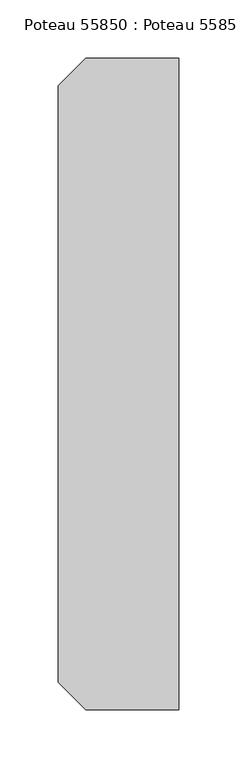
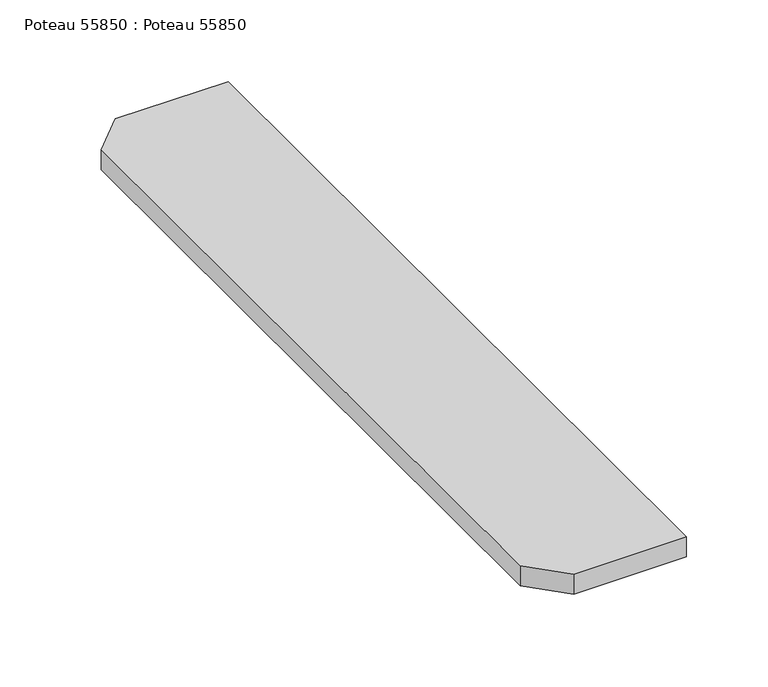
"""IFC4 building model written with IfcOpenShell, lengths in millimetres: beam geometry, Poteau 55850 : Poteau 55850."""

import ifcopenshell
import ifcopenshell.guid

model = None  # the IFC model being written
_history = None  # IfcOwnerHistory: only IFC2X3 demands one
_inside = {}  # id of a spatial element -> (the spatial element, [elements in it])
_under = {}  # id of a project, library or spatial element -> (it, [spatial elements below it])
_declared = {}  # id of a project -> (the project, [libraries it declares])
_typed = {}  # id of a type object -> (the type object, [elements of that type])
_made_of = {}  # id of a material, layer set ... -> (it, [elements and type objects made of it])


def new_model(schema):
    """Start an empty IFC model of exactly this schema.

    Asked for "IFC4X3", IfcOpenShell would pick the latest addendum, in which some entities
    have other attributes; the version numbers below select the first issue.
    IFC2X3 requires an IfcOwnerHistory on every rooted entity: one is made here for all.
    """
    global model, _history
    if schema == "IFC4X3":
        model = ifcopenshell.file(schema_version=(4, 3, 0, 0))
    else:
        model = ifcopenshell.file(schema=schema)
    _inside.clear()
    _under.clear()
    _declared.clear()
    _typed.clear()
    _made_of.clear()
    _history = None
    if model.schema == "IFC2X3":
        org = make("IfcOrganization", Name="unknown")
        user = make(
            "IfcPersonAndOrganization",
            ThePerson=make("IfcPerson", FamilyName="unknown"),
            TheOrganization=org,
        )
        app = make(
            "IfcApplication",
            ApplicationDeveloper=org,
            Version="unknown",
            ApplicationFullName="unknown",
            ApplicationIdentifier="unknown",
        )
        _history = make(
            "IfcOwnerHistory",
            OwningUser=user,
            OwningApplication=app,
            ChangeAction="ADDED",
            CreationDate=0,
        )
    return model


def make(cls, **values):
    """One entity of the class cls with the attributes given. An attribute that is None is left unset."""
    return model.create_entity(
        cls, **{name: value for name, value in values.items() if value is not None}
    )


def rooted(cls, **values):
    """An entity with a GlobalId (a new one), such as an element, a storey or a relation."""
    return make(cls, GlobalId=ifcopenshell.guid.new(), OwnerHistory=_history, **values)


def si_unit(unit_type, name, prefix=None):
    """IfcSIUnit, for example si_unit("LENGTHUNIT", "METRE", prefix="MILLI")."""
    return make("IfcSIUnit", UnitType=unit_type, Prefix=prefix, Name=name)


def assignment(units):
    """IfcUnitAssignment: the units of a project."""
    return None if units is None else make("IfcUnitAssignment", Units=units)


def point(xyz):
    """IfcCartesianPoint."""
    return None if xyz is None else make("IfcCartesianPoint", Coordinates=xyz)


def direction(xyz):
    """IfcDirection."""
    return None if xyz is None else make("IfcDirection", DirectionRatios=xyz)


def frame(location, z_axis=None, x_axis=None):
    """IfcAxis2Placement3D, a coordinate frame: its origin and axes. An axis left out is left unset."""
    return make(
        "IfcAxis2Placement3D",
        Location=point(location),
        Axis=direction(z_axis),
        RefDirection=direction(x_axis),
    )


def origin():
    """The frame at (0, 0, 0) with its axes left unset."""
    return frame((0.0, 0.0, 0.0))


def place(relative_to, where):
    """IfcLocalPlacement: puts the frame where relative to a parent placement (None: the world)."""
    return make(
        "IfcLocalPlacement", PlacementRelTo=relative_to, RelativePlacement=where
    )


def context(
    kind, dimensions, precision=None, world=None, true_north=None, identifier=None
):
    """IfcGeometricRepresentationContext, for example the 3D "Model" context."""
    return make(
        "IfcGeometricRepresentationContext",
        ContextIdentifier=identifier,
        ContextType=kind,
        CoordinateSpaceDimension=dimensions,
        Precision=precision,
        WorldCoordinateSystem=world,
        TrueNorth=true_north,
    )


def project(units=None, contexts=None):
    """IfcProject with its units and contexts."""
    return rooted(
        "IfcProject",
        Name="project",
        RepresentationContexts=contexts,
        UnitsInContext=assignment(units),
    )


def spatial(cls, under=None, at=None, **own):
    """A site, building, storey or space (cls), placed at a placement, below another one or the project."""
    s = rooted(cls, ObjectPlacement=at, **own)
    if under is not None:
        _under.setdefault(under.id(), (under, []))[1].append(s)
    return s


def polyline(points):
    """IfcPolyline through the points."""
    return make("IfcPolyline", Points=[point(p) for p in points])


def outline(outer, holes=None, kind="AREA"):
    """IfcArbitraryClosedProfileDef: a profile drawn as a closed curve; with holes, ...WithVoids."""
    if holes is None:
        return make("IfcArbitraryClosedProfileDef", ProfileType=kind, OuterCurve=outer)
    return make(
        "IfcArbitraryProfileDefWithVoids",
        ProfileType=kind,
        OuterCurve=outer,
        InnerCurves=holes,
    )


def extrude(swept, where, along, depth):
    """IfcExtrudedAreaSolid: the profile swept, set in the frame where, extruded along a direction by depth."""
    return make(
        "IfcExtrudedAreaSolid",
        SweptArea=swept,
        Position=where,
        ExtrudedDirection=direction(along),
        Depth=depth,
    )


def shape(context_of_items, identifier, shape_type, items):
    """IfcShapeRepresentation: the items that make up one representation, for example the "Body"."""
    return make(
        "IfcShapeRepresentation",
        ContextOfItems=context_of_items,
        RepresentationIdentifier=identifier,
        RepresentationType=shape_type,
        Items=items,
    )


def source(mapping_origin, context_of_items, identifier, shape_type, items):
    """IfcRepresentationMap: a shape defined once, which mapped items show again and again."""
    return make(
        "IfcRepresentationMap",
        MappingOrigin=mapping_origin,
        MappedRepresentation=shape(context_of_items, identifier, shape_type, items),
    )


def transform(
    local_origin,
    x_axis=None,
    y_axis=None,
    z_axis=None,
    scale=None,
    scale2=None,
    scale3=None,
    uniform=True,
):
    """IfcCartesianTransformationOperator3D, or its non-uniform kind. x_axis, y_axis, z_axis: its Axis1, 2, 3."""
    if uniform:
        return make(
            "IfcCartesianTransformationOperator3D",
            Axis1=direction(x_axis),
            Axis2=direction(y_axis),
            LocalOrigin=point(local_origin),
            Scale=scale,
            Axis3=direction(z_axis),
        )
    return make(
        "IfcCartesianTransformationOperator3DnonUniform",
        Axis1=direction(x_axis),
        Axis2=direction(y_axis),
        LocalOrigin=point(local_origin),
        Scale=scale,
        Axis3=direction(z_axis),
        Scale2=scale2,
        Scale3=scale3,
    )


def mapped(mapping_source, mapping_target):
    """IfcMappedItem: shows the shape of a source again, moved by a transform."""
    return make(
        "IfcMappedItem", MappingSource=mapping_source, MappingTarget=mapping_target
    )


def made_of(thing, what):
    """Note that an element or type object is made of a material, layer set ...; save() writes the relation."""
    if what is not None:
        _made_of.setdefault(what.id(), (what, []))[1].append(thing)
    return thing


def element(
    cls,
    number,
    at=None,
    inside=None,
    cuts=None,
    type_object=None,
    material=None,
    context=None,
    identifier="Body",
    shape_type=None,
    held_by="IfcProductDefinitionShape",
    body=None,
    shapes=None,
    **own,
):
    """One element of the class cls, such as IfcWall. Its Tag is "e" and its number.

    at: its placement. inside: the storey or other place that contains it. cuts: it is an
    opening in that element (IfcRelVoidsElement). A single representation is given by context,
    identifier, shape_type and body (its items); several are given by shapes. held_by: the class
    of the entity that holds the representations. save() writes the other relations.
    """
    e = rooted(cls, Tag="e%d" % number, ObjectPlacement=at, **own)
    if body is not None:
        shapes = [shape(context, identifier, shape_type, body)]
    if shapes is not None:
        e.Representation = make(held_by, Representations=shapes)
    if inside is not None:
        _inside.setdefault(inside.id(), (inside, []))[1].append(e)
    if cuts is not None:
        rooted(
            "IfcRelVoidsElement", RelatingBuildingElement=cuts, RelatedOpeningElement=e
        )
    if type_object is not None:
        _typed.setdefault(type_object.id(), (type_object, []))[1].append(e)
    return made_of(e, material)


def aggregate(whole, parts):
    """IfcRelAggregates: a whole, such as a stair, and the parts it consists of."""
    return rooted("IfcRelAggregates", RelatingObject=whole, RelatedObjects=parts)


def save(model, path):
    """Write the relations noted so far, then the file.

    IfcRelAggregates (storeys below a building ...), IfcRelContainedInSpatialStructure (elements
    in a storey), IfcRelDefinesByType, IfcRelAssociatesMaterial and IfcRelDeclares: one each for
    every whole, place, type object, material and project.
    """
    for whole, parts in _under.values():
        aggregate(whole, parts)
    for where, things in _inside.values():
        rooted(
            "IfcRelContainedInSpatialStructure",
            RelatedElements=things,
            RelatingStructure=where,
        )
    for kind, things in _typed.values():
        rooted("IfcRelDefinesByType", RelatedObjects=things, RelatingType=kind)
    for what, things in _made_of.values():
        rooted("IfcRelAssociatesMaterial", RelatedObjects=things, RelatingMaterial=what)
    for by, libraries in _declared.values():
        rooted("IfcRelDeclares", RelatingContext=by, RelatedDefinitions=libraries)
    model.write(path)


def poteau_55850_poteau_55850_18e45c55(model_context):
    return source(origin(), model_context, "Body", "SweptSolid", [
        extrude(outline(polyline([(109.9999999, -29023.0), (109.9999999, -29585.0), (29.9999999, -29585.0), (5.9999999, -29561.0), (5.9999999, -29047.0), (29.9999999, -29023.0), (109.9999999, -29023.0)])), frame((0.0, 0.0, 6830.14), z_axis=(0.0, 0.0, 1.0), x_axis=(1.0, 0.0, 0.0)), (0.0, 0.0, 1.0), 15.0),
    ])


if __name__ == "__main__":
    model = new_model("IFC4")
    model_context = context("Model", 3, world=origin())
    ifc_project = project(units=[si_unit("LENGTHUNIT", "METRE", prefix="MILLI")], contexts=[model_context])
    site = spatial("IfcSite", under=ifc_project)
    building = spatial("IfcBuilding", under=site)
    placement = place(None, origin())
    poteau_55850_poteau_55850_shape = poteau_55850_poteau_55850_18e45c55(model_context)
    element("IfcBeam", 1, ObjectType="Poteau 55850 : Poteau 55850", at=placement, inside=building, context=model_context, shape_type="MappedRepresentation", body=[
        mapped(poteau_55850_poteau_55850_shape, transform((0.0, 0.0, 0.0), x_axis=(1.0, 0.0, 0.0), y_axis=(0.0, 1.0, 0.0), z_axis=(0.0, 0.0, 1.0))),
    ])
    save(model, "model.ifc")
